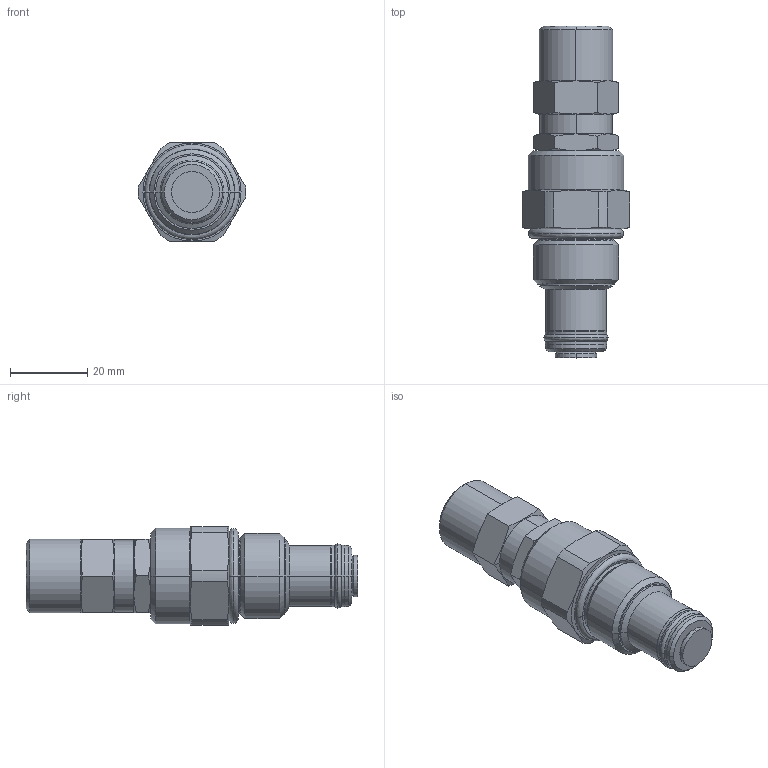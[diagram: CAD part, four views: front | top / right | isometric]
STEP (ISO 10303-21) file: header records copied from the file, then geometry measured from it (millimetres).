
FILE_DESCRIPTION((''),'2;1');
FILE_NAME('5410001_SW0003','2009-02-03T',('jcs'),(''),'PRO/ENGINEER BY PARAMETRIC TECHNOLOGY CORPORATION, 2008010','PRO/ENGINEER BY PARAMETRIC TECHNOLOGY CORPORATION, 2008010','');
FILE_SCHEMA(('CONFIG_CONTROL_DESIGN'));
Length unit declared in the file: inch
Products named in the file (1): 5410001_SW0003
Bounding box: 27.94 x 85.95 x 25.4 mm (x, y, z)
Volume: 28907 mm3; surface area: 7892.8 mm2
Topology: 3 solids, 3 shells, 137 faces, 302 edges, 176 vertices
Faces by surface type: cone 46, cylinder 34, plane 29, revolution 16, torus 12
Entity records: 4442 total; most frequent: CARTESIAN_POINT 1429, DIRECTION 632, ORIENTED_EDGE 604, EDGE_CURVE 302, AXIS2_PLACEMENT_3D 269, VERTEX_POINT 176, CIRCLE 148, EDGE_LOOP 146
